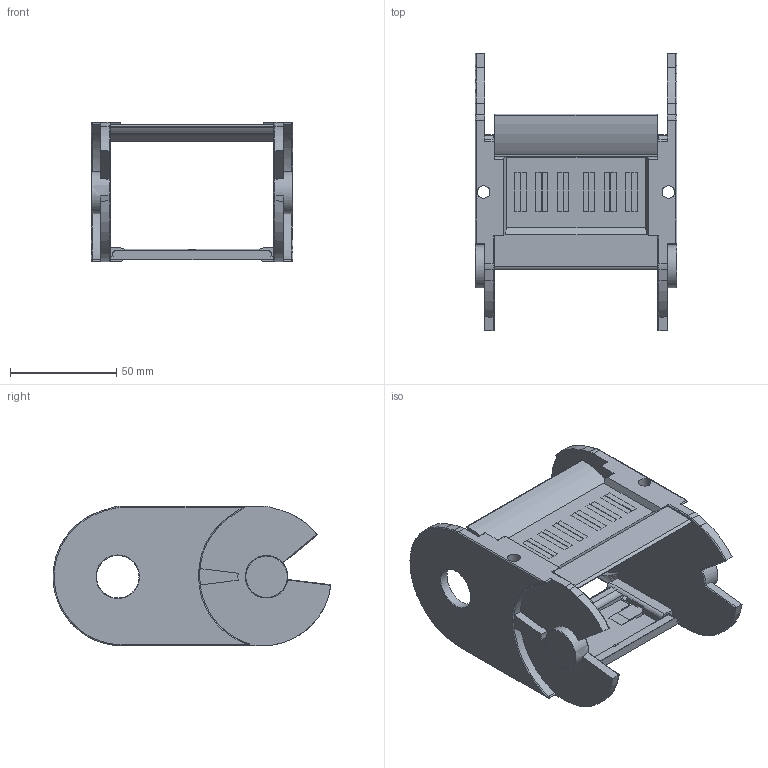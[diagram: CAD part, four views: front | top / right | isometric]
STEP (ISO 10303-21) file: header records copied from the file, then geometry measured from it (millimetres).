
FILE_DESCRIPTION((''),'2;1');
FILE_NAME('C:\Uebbing\PARAMETERKETTEN\KOLIBRI\Kol_65_095_1\Kol_65_095_1.stp','2011-11-02T15:01:40',('Uebbing'),(''),'Autodesk Inventor 10','Autodesk Inventor 10','');
FILE_SCHEMA(('AUTOMOTIVE_DESIGN { 1 0 10303 214 1 1 1 1 }'));
Length unit declared in the file: millimetre
Products named in the file (3): Kol_65_095_1; Kol_65_095_5 Lasche; Kol_65_095_1 Klappsteg
Assembly tree (2 placements, depth 2):
  Kol_65_095_1
    Kol_65_095_5 Lasche
    Kol_65_095_1 Klappsteg
Bounding box: 95 x 130.76 x 65.7 mm (x, y, z)
Volume: 94337.9 mm3; surface area: 59254.4 mm2
Topology: 2 solids, 2 shells, 516 faces, 1412 edges, 905 vertices
Faces by surface type: plane 222, bspline 186, cylinder 90, torus 12, cone 4, sphere 2
Full cylindrical faces by diameter (mm): 2.514 x1, 4 x3, 4.414 x1, 6 x1, 20 x2
Entity records: 17283 total; most frequent: CARTESIAN_POINT 4689, ORIENTED_EDGE 2754, DIRECTION 2341, EDGE_CURVE 1377, VECTOR 1007, LINE 1007, VERTEX_POINT 894, AXIS2_PLACEMENT_3D 667
